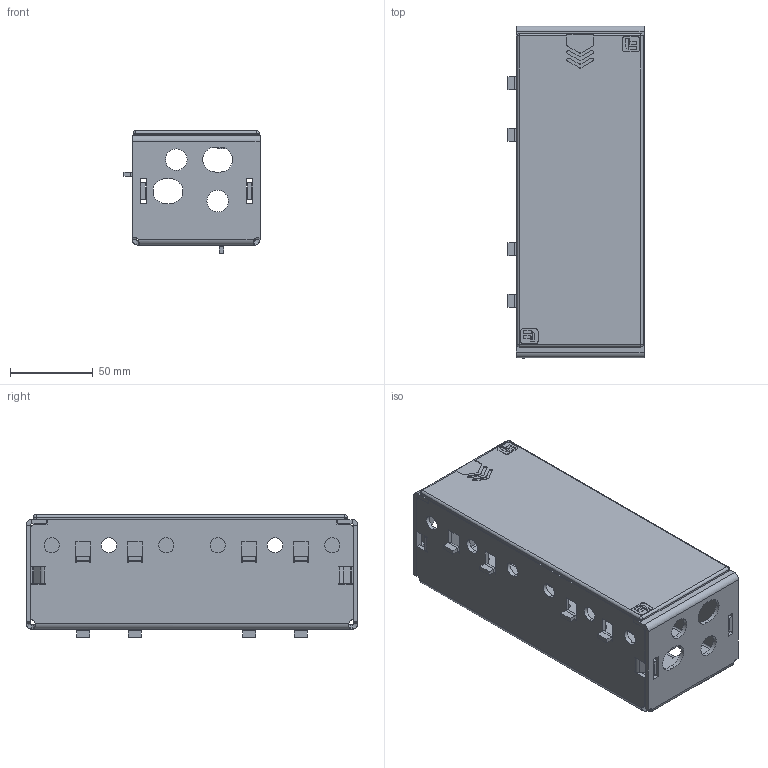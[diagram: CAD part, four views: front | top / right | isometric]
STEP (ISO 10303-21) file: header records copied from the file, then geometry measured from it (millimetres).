
FILE_DESCRIPTION (( 'STEP AP203' ), '1' );
FILE_NAME ('EUZE-A0200.STEP', '2020-03-09T14:30:31', ( '' ), ( '' ), 'SwSTEP 2.0', 'SolidWorks 2019', '' );
FILE_SCHEMA (( 'CONFIG_CONTROL_DESIGN' ));
Length unit declared in the file: millimetre
Products named in the file (3): Piegatura_angolo_lamiera_zoccolo_universale_200; EUZE-A0200; Tappo_angolo_lamiera_Versione_A_h_200
Assembly tree (2 placements, depth 2):
  EUZE-A0200
    Piegatura_angolo_lamiera_zoccolo_universale_200
    Tappo_angolo_lamiera_Versione_A_h_200
Bounding box: 82 x 200 x 74 mm (x, y, z)
Volume: 162183.7 mm3; surface area: 134572.6 mm2
Topology: 2 solids, 2 shells, 640 faces, 1692 edges, 1062 vertices
Faces by surface type: plane 414, cylinder 214, bspline 8, sphere 4
Entity records: 20469 total; most frequent: CARTESIAN_POINT 3979, ORIENTED_EDGE 3376, DIRECTION 3334, EDGE_CURVE 1688, VECTOR 1240, LINE 1240, VERTEX_POINT 1062, AXIS2_PLACEMENT_3D 1047
